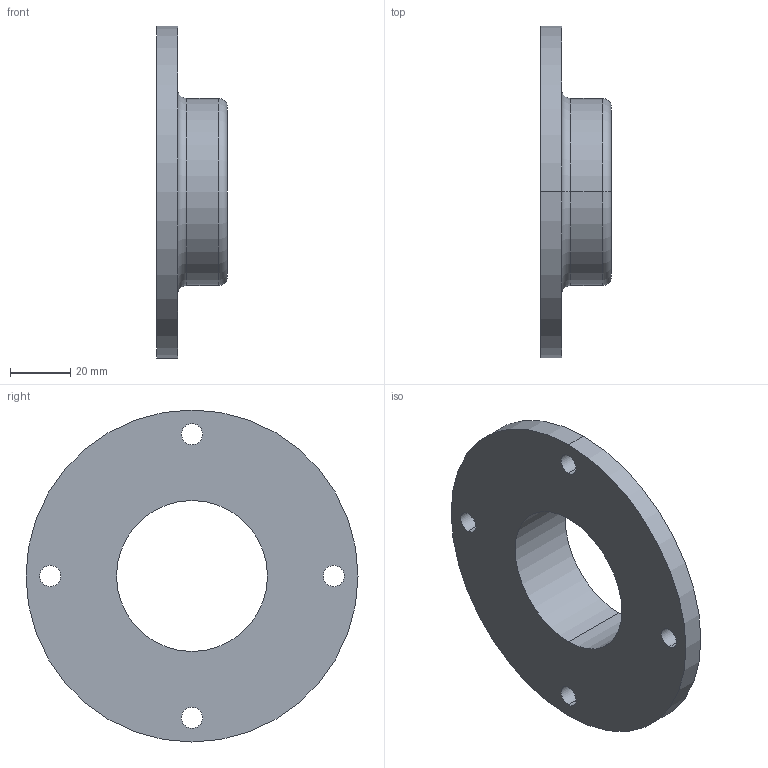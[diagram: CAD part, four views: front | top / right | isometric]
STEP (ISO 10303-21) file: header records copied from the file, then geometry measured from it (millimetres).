
FILE_DESCRIPTION (( 'STEP AP203' ), '1' );
FILE_NAME ('084.802.040.STEP', '2013-01-29T12:49:50', ( 'Alusic' ), ( 'Alusic' ), 'SwSTEP 2.0', 'SolidWorks 2011', '' );
FILE_SCHEMA (( 'CONFIG_CONTROL_DESIGN' ));
Length unit declared in the file: millimetre
Products named in the file (1): 084.802.040
Bounding box: 23.5 x 110 x 110 mm (x, y, z)
Volume: 69134.4 mm3; surface area: 24210.2 mm2
Topology: 1 solids, 1 shells, 21 faces, 50 edges, 32 vertices
Faces by surface type: cylinder 14, torus 4, plane 3
Entity records: 725 total; most frequent: DIRECTION 130, CARTESIAN_POINT 104, ORIENTED_EDGE 100, AXIS2_PLACEMENT_3D 58, EDGE_CURVE 50, CIRCLE 36, EDGE_LOOP 32, VERTEX_POINT 32
